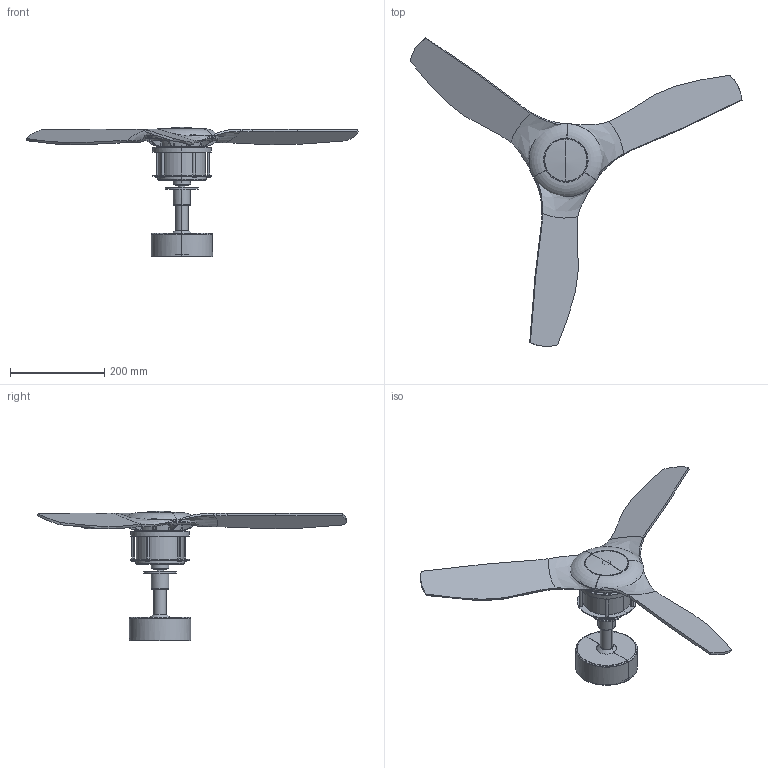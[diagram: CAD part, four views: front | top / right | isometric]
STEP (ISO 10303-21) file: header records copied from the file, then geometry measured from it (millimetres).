
FILE_DESCRIPTION(/* description */ (''),/* implementation_level */ '2;1');
FILE_NAME(/* name */ 'C:\Users\FrancoSartori\Documents\FARO\03_Completados\JUST FAN\03_Publicación\810\33423WP.stp',/* time_stamp */ '2021-06-02T11:30:33+02:00',/* author */ ('FrancoSartori'),/* organization */ (''),/* preprocessor_version */ 'ST-DEVELOPER v18.1',/* originating_system */ 'AutoCAD Mechanical',/* authorisation */ '');
FILE_SCHEMA (('AUTOMOTIVE_DESIGN { 1 0 10303 214 3 1 1 }'));
Length unit declared in the file: millimetre
Products named in the file (2): Product; 33423_33424_33425_33426_33427_33428_33429_JUSTFAN - JUST FAN-457574-_
3D_
Assembly tree (1 placements, depth 2):
  Product
    33423_33424_33425_33426_33427_33428_33429_JUSTFAN - JUST FAN-457574-_
3D_
Bounding box: 706.13 x 656.69 x 274.96 mm (x, y, z)
Volume: 1630941.6 mm3; surface area: 426821.7 mm2
Topology: 24 solids, 24 shells, 482 faces, 1172 edges, 762 vertices
Faces by surface type: plane 145, cylinder 125, bspline 120, torus 68, cone 20, sphere 4
Entity records: 19464 total; most frequent: CARTESIAN_POINT 9533, ORIENTED_EDGE 2230, DIRECTION 1659, EDGE_CURVE 1115, VERTEX_POINT 734, AXIS2_PLACEMENT_3D 632, EDGE_LOOP 503, FACE_OUTER_BOUND 454
